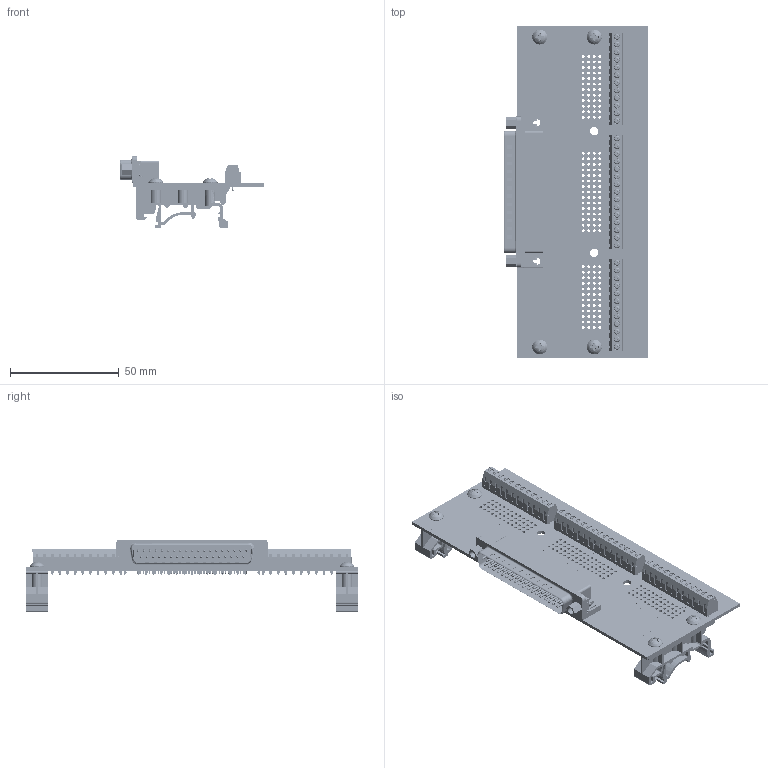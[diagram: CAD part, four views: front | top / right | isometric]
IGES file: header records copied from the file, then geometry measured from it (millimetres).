
Start section: SolidWorks IGES file using analytic representation for surfaces
Global section: file name: C:\Users\Jonny\Documents\Winford Engineering Jobs\BRK37\BRK37M\brk37m-r-din_rev_d.igs; native system: SolidWorks 2017; preprocessor: SolidWorks 2017; author: Jonny; date: 171001.232308; units: inch
Bounding box: 66.51 x 152.4 x 33.1 mm (x, y, z)
Volume: 33432.4 mm3; surface area: 53322.3 mm2
Topology: 285 solids, 285 shells, 15610 faces, 43467 edges, 28656 vertices
Faces by surface type: plane 7218, bspline 4844, revolution 3548
